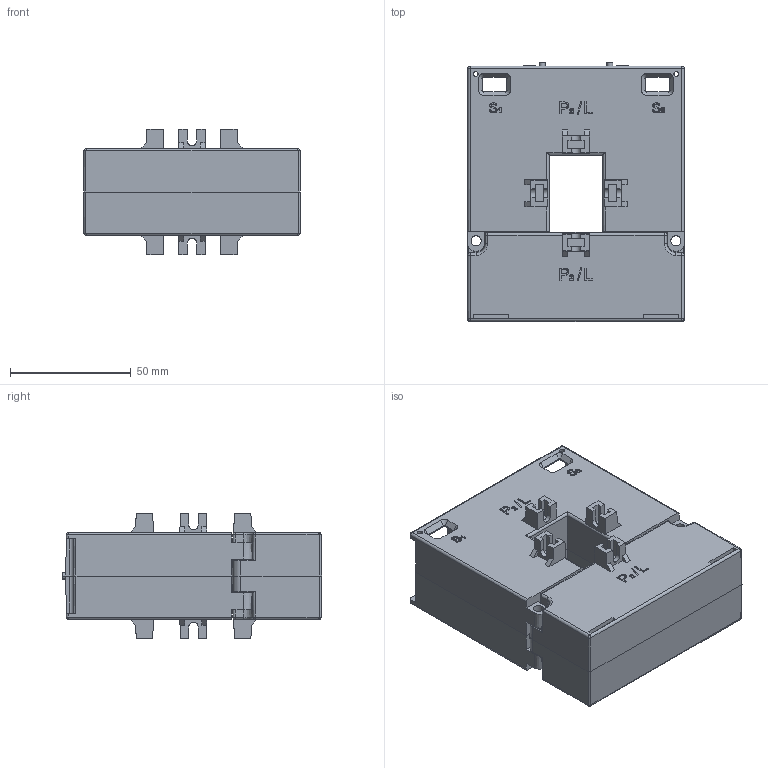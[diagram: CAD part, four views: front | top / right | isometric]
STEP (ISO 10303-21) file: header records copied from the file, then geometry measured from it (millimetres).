
FILE_DESCRIPTION(/* description */ (''),/* implementation_level */ '2;1');
FILE_NAME(/* name */ 'PL 30.stp',/* time_stamp */ '2026-03-10T13:14:26+08:00',/* author */ (''),/* organization */ (''),/* preprocessor_version */ 'ST-DEVELOPER v18.102',/* originating_system */ 'SIEMENS PLM Software NX2206.1700',/* authorisation */ '');
FILE_SCHEMA (('AUTOMOTIVE_DESIGN { 1 0 10303 214 3 1 1 1 }'));
Length unit declared in the file: millimetre
Products named in the file (1): PL 60 80 100 125 160_objects
Bounding box: 89.8 x 107.27 x 52 mm (x, y, z)
Volume: 95221.6 mm3; surface area: 88038.6 mm2
Topology: 4 solids, 4 shells, 1284 faces, 3553 edges, 2326 vertices
Faces by surface type: plane 888, cylinder 218, extrusion 118, cone 32, bspline 16, sphere 8, torus 4
Full cylindrical faces by diameter (mm): 1.006 x4, 4.2 x8, 5.2 x2, 5.5 x2
Entity records: 43099 total; most frequent: CARTESIAN_POINT 11098, ORIENTED_EDGE 7018, DIRECTION 5825, EDGE_CURVE 3509, VECTOR 2633, LINE 2515, VERTEX_POINT 2318, AXIS2_PLACEMENT_3D 1596
